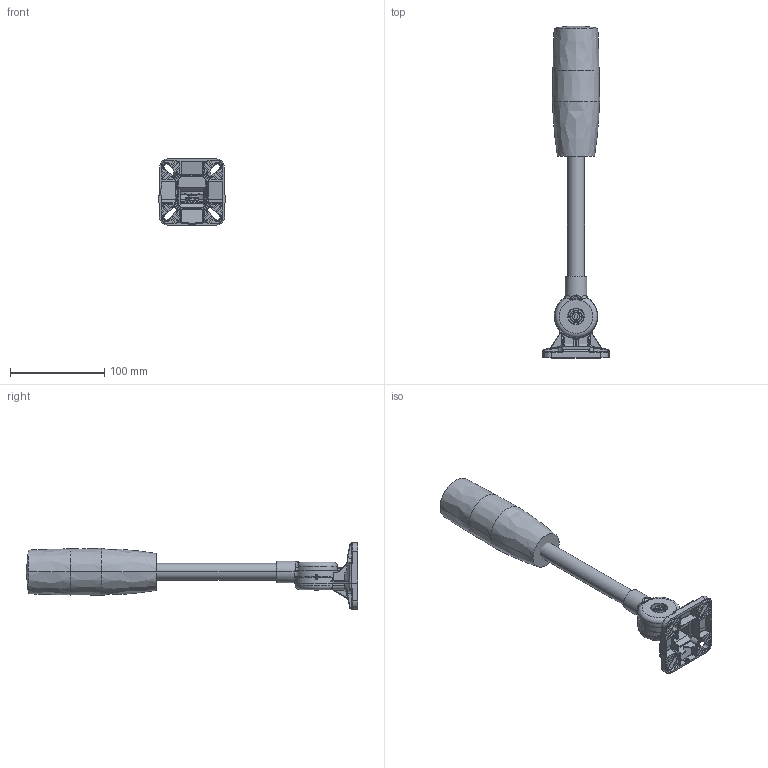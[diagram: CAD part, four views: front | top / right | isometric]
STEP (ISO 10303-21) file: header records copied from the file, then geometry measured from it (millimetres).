
FILE_DESCRIPTION((''),'2;1');
FILE_NAME('M4T-KZ_ASM','2021-07-29T',('ABC'),(''),'CREO PARAMETRIC BY PTC INC, 2015380','CREO PARAMETRIC BY PTC INC, 2015380','');
FILE_SCHEMA(('CONFIG_CONTROL_DESIGN'));
Products named in the file (14): M4-DZ-DUOK_145; M4-ZJT-S-Z_111; DP__1; M5-35__2; M5-LM__1; M4-KZDZ-S-Z_ASM_52_ASM; ASSY-1_ASM_1_ASM; TOP_01_2_1; BOTTOM_1_2_1; AL_TUBE_2_1; ASSY-1_ASM_2_ASM_1_ASM; M4T-KZ_ASM_1_ASM; M4T-KZ-165_ASM; M4T-KZ_ASM
Assembly tree (14 placements, depth 5):
  M4T-KZ_ASM
    ASSY-1_ASM_1_ASM
      M4-KZDZ-S-Z_ASM_52_ASM
        M4-DZ-DUOK_145
        M4-ZJT-S-Z_111
        DP__1
        M5-35__2
        M5-LM__1
    M4T-KZ-165_ASM
      M4T-KZ_ASM_1_ASM
        ASSY-1_ASM_2_ASM_1_ASM
          TOP_01_2_1
          BOTTOM_1_2_1  x2
          AL_TUBE_2_1
Bounding box: 70 x 351.3 x 70 mm (x, y, z)
Volume: 423652.6 mm3; surface area: 87420.6 mm2
Topology: 9 solids, 9 shells, 1493 faces, 3936 edges, 2453 vertices
Faces by surface type: plane 530, cylinder 425, bspline 194, torus 160, cone 133, sphere 51
Entity records: 69486 total; most frequent: CARTESIAN_POINT 34708, ORIENTED_EDGE 7764, DIRECTION 6515, EDGE_CURVE 3882, VERTEX_POINT 2449, AXIS2_PLACEMENT_3D 2443, VECTOR 1629, LINE 1629
